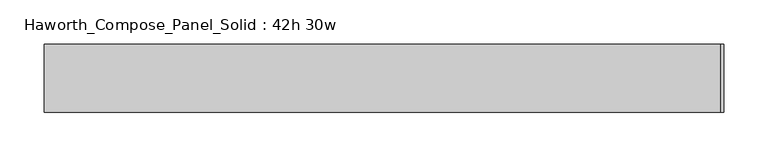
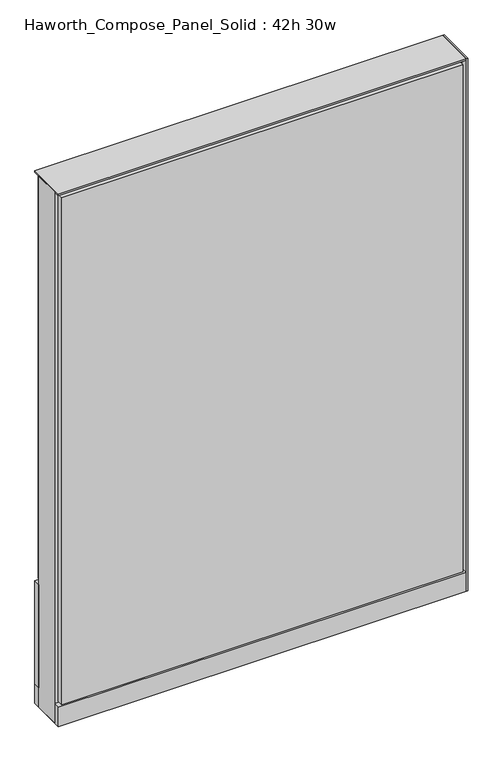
"""IFC4 building model written with IfcOpenShell, lengths in millimetres: furniture geometry, Haworth_Compose_Panel_Solid : 42h 30w."""

from ifc_helpers import new_model, si_unit, point, frame, frame_2d, origin, origin_with_axes, place, context, project, spatial, polyline, circle_curve, trimmed, segment, composite_curve, outline, extrude, source, transform, mapped, element, save


def haworth_compose_panel_solid_42h_30w_4c1c5ae4(model_context):
    return source(origin(), model_context, "Body", "SweptSolid", [
        extrude(outline(composite_curve([segment(trimmed(circle_curve(frame_2d((-302.3597098, 0.0)), 12.7), [point((-315.0597098, 0.0))], [point((-289.6597098, 0.0))], False, "CARTESIAN"), True, "CONTINUOUS"), segment(trimmed(circle_curve(frame_2d((-302.3597098, 0.0)), 12.7), [point((-289.6597098, 0.0))], [point((-315.0597098, 0.0))], False, "CARTESIAN"), True, "CONTINUOUS")], self_intersect=False)), origin_with_axes(), (0.0, 0.0, 1.0), 12.7),
        extrude(outline(composite_curve([segment(trimmed(circle_curve(frame_2d((307.2402902, 0.0)), 12.7), [point((294.5402902, 0.0))], [point((319.9402902, 0.0))], False, "CARTESIAN"), True, "CONTINUOUS"), segment(trimmed(circle_curve(frame_2d((307.2402902, 0.0)), 12.7), [point((319.9402902, 0.0))], [point((294.5402902, 0.0))], False, "CARTESIAN"), True, "CONTINUOUS")], self_intersect=False)), origin_with_axes(), (0.0, 0.0, 1.0), 12.7),
        extrude(outline(polyline([(386.6152902, -38.1), (383.4402902, -38.1), (383.4402902, 38.1), (386.6152902, 38.1), (386.6152902, -38.1)])), frame((0.0, 0.0, 12.7), z_axis=(0.0, 0.0, 1.0), x_axis=(1.0, 0.0, 0.0)), (0.0, 0.0, 1.0), 1050.925),
        extrude(outline(polyline([(377.0902902, -38.1), (-372.2097098, -38.1), (-372.2097098, -25.4), (377.0902902, -25.4), (377.0902902, -38.1)])), frame((0.0, 0.0, 53.975), z_axis=(0.0, 0.0, 1.0), x_axis=(1.0, 0.0, 0.0)), (0.0, 0.0, 1.0), 1000.125),
        extrude(outline(polyline([(383.4402902, 38.1), (383.4402902, 25.4), (-378.5597098, 25.4), (-378.5597098, 38.1), (383.4402902, 38.1)])), frame((0.0, 0.0, 50.8), z_axis=(0.0, 0.0, 1.0), x_axis=(1.0, 0.0, 0.0)), (0.0, 0.0, 1.0), 203.2),
        extrude(outline(polyline([(377.0902902, 38.1), (377.0902902, 25.4), (-372.2097098, 25.4), (-372.2097098, 38.1), (377.0902902, 38.1)])), frame((0.0, 0.0, 257.175), z_axis=(0.0, 0.0, 1.0), x_axis=(1.0, 0.0, 0.0)), (0.0, 0.0, 1.0), 796.925),
        extrude(outline(polyline([(383.4402902, -25.4), (-378.5597098, -25.4), (-378.5597098, 25.4), (383.4402902, 25.4), (383.4402902, -25.4)])), frame((0.0, 0.0, 12.7), z_axis=(0.0, 0.0, 1.0), x_axis=(1.0, 0.0, 0.0)), (0.0, 0.0, 1.0), 1047.75),
        extrude(outline(polyline([(-378.5597098, 38.1), (383.4402902, 38.1), (383.4402902, -38.1), (-378.5597098, -38.1), (-378.5597098, 38.1)])), frame((0.0, 0.0, 12.7), z_axis=(0.0, 0.0, 1.0), x_axis=(1.0, 0.0, 0.0)), (0.0, 0.0, 1.0), 38.1),
        extrude(outline(polyline([(-378.5597098, 38.1), (383.4402902, 38.1), (383.4402902, -38.1), (-378.5597098, -38.1), (-378.5597098, 38.1)])), frame((0.0, 0.0, 1060.45), z_axis=(0.0, 0.0, 1.0), x_axis=(1.0, 0.0, 0.0)), (0.0, 0.0, 1.0), 3.175),
    ])


if __name__ == "__main__":
    model = new_model("IFC4")
    model_context = context("Model", 3, world=origin())
    ifc_project = project(units=[si_unit("LENGTHUNIT", "METRE", prefix="MILLI")], contexts=[model_context])
    site = spatial("IfcSite", under=ifc_project)
    building = spatial("IfcBuilding", under=site)
    placement = place(None, origin())
    haworth_compose_panel_solid_42h_30w_shape = haworth_compose_panel_solid_42h_30w_4c1c5ae4(model_context)
    element("IfcFurniture", 1, ObjectType="Haworth_Compose_Panel_Solid : 42h 30w", at=placement, inside=building, context=model_context, shape_type="MappedRepresentation", body=[
        mapped(haworth_compose_panel_solid_42h_30w_shape, transform((0.0, 0.0, 0.0), x_axis=(1.0, 0.0, 0.0), y_axis=(0.0, 1.0, 0.0), z_axis=(0.0, 0.0, 1.0))),
    ])
    save(model, "model.ifc")
